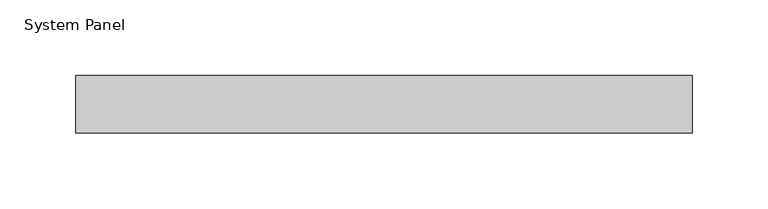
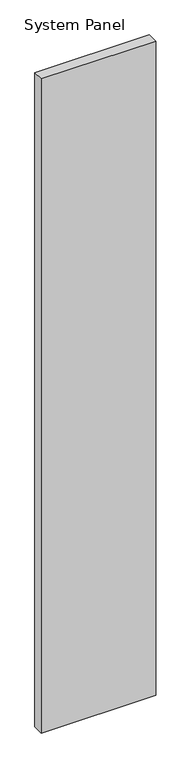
"""IFC4 building model written with IfcOpenShell, lengths in millimetres: plate geometry."""

from ifc_helpers import new_model, si_unit, origin, origin_with_axes, place, context, project, spatial, polyline, outline, extrude, source, transform, mapped, element, save


def system_panel_db5a4bbc(model_context):
    return source(origin(), model_context, "Body", "SweptSolid", [
        extrude(outline(polyline([(203.99375, -19.05), (-203.99375, -19.05), (-203.99375, 19.05), (203.99375, 19.05), (203.99375, -19.05)])), origin_with_axes(), (0.0, 0.0, 1.0), 2463.8),
    ])


if __name__ == "__main__":
    model = new_model("IFC4")
    model_context = context("Model", 3, world=origin())
    ifc_project = project(units=[si_unit("LENGTHUNIT", "METRE", prefix="MILLI")], contexts=[model_context])
    site = spatial("IfcSite", under=ifc_project)
    building = spatial("IfcBuilding", under=site)
    placement = place(None, origin())
    system_panel_shape = system_panel_db5a4bbc(model_context)
    element("IfcPlate", 1, ObjectType="System Panel : 1/2\" Plywood & 1\" Rigid Ins.", at=placement, inside=building, context=model_context, shape_type="MappedRepresentation", body=[
        mapped(system_panel_shape, transform((0.0, 0.0, 0.0), x_axis=(1.0, 0.0, 0.0), y_axis=(0.0, 1.0, 0.0), z_axis=(0.0, 0.0, 1.0))),
    ])
    save(model, "model.ifc")
